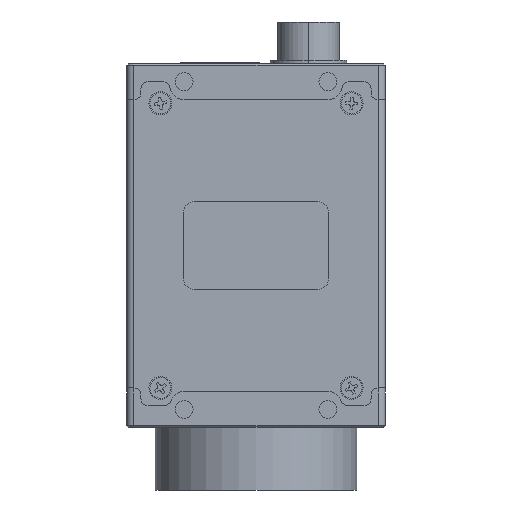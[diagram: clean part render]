
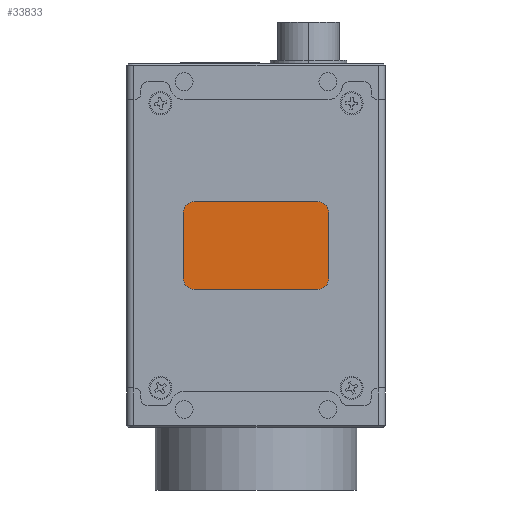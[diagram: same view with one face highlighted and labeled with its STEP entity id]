
A CAD part, front view. The second image highlights one B-rep face of the part: STEP entity #33833.
In plain terms, the highlighted planar face has unit normal (0, -1, 0).
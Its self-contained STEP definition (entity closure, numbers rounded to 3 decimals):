
#498 = ORIENTED_EDGE ( 'NONE', *, *, #19278, .T. ) ;
#1351 = CARTESIAN_POINT ( 'NONE',  ( 8.6, -15.85, 32.7 ) ) ;
#3438 = AXIS2_PLACEMENT_3D ( 'NONE', #42400, #8090, #34596 ) ;
#4419 = CIRCLE ( 'NONE', #32506, 1.5 ) ;
#4607 = EDGE_CURVE ( 'NONE', #36212, #52549, #40625, .T. ) ;
#4867 = CARTESIAN_POINT ( 'NONE',  ( -8.6, -15.85, 32.7 ) ) ;
#5538 = EDGE_CURVE ( 'NONE', #28374, #58795, #42431, .T. ) ;
#6137 = EDGE_CURVE ( 'NONE', #58795, #8797, #14297, .T. ) ;
#6352 = CARTESIAN_POINT ( 'NONE',  ( 10.1, -15.85, 32.7 ) ) ;
#6847 = DIRECTION ( 'NONE',  ( 0., 0., -1. ) ) ;
#7287 = CARTESIAN_POINT ( 'NONE',  ( -10.1, -15.85, 43.4 ) ) ;
#8090 = DIRECTION ( 'NONE',  ( 0., -1., 0. ) ) ;
#8127 = CARTESIAN_POINT ( 'NONE',  ( -10.1, -15.85, 44.9 ) ) ;
#8354 = DIRECTION ( 'NONE',  ( 0., -1., 0. ) ) ;
#8797 = VERTEX_POINT ( 'NONE', #7287 ) ;
#9451 = FACE_OUTER_BOUND ( 'NONE', #48272, .T. ) ;
#10033 = CARTESIAN_POINT ( 'NONE',  ( -8.6, -15.85, 44.9 ) ) ;
#10653 = ORIENTED_EDGE ( 'NONE', *, *, #33877, .T. ) ;
#10662 = DIRECTION ( 'NONE',  ( 0., -1., 0. ) ) ;
#11881 = VECTOR ( 'NONE', #26133, 1000. ) ;
#14297 = CIRCLE ( 'NONE', #3438, 1.5 ) ;
#14392 = CARTESIAN_POINT ( 'NONE',  ( 0., -15.85, 38.8 ) ) ;
#15229 = ORIENTED_EDGE ( 'NONE', *, *, #36536, .T. ) ;
#15652 = LINE ( 'NONE', #49927, #35361 ) ;
#17246 = CIRCLE ( 'NONE', #21784, 1.5 ) ;
#17968 = VERTEX_POINT ( 'NONE', #31705 ) ;
#18272 = LINE ( 'NONE', #52555, #11881 ) ;
#18369 = ORIENTED_EDGE ( 'NONE', *, *, #4607, .T. ) ;
#19278 = EDGE_CURVE ( 'NONE', #21383, #39346, #4419, .T. ) ;
#21383 = VERTEX_POINT ( 'NONE', #1351 ) ;
#21784 = AXIS2_PLACEMENT_3D ( 'NONE', #34850, #8354, #42659 ) ;
#22236 = DIRECTION ( 'NONE',  ( 0., 0., -1. ) ) ;
#23490 = DIRECTION ( 'NONE',  ( 0., 0., -1. ) ) ;
#25269 = ORIENTED_EDGE ( 'NONE', *, *, #26480, .T. ) ;
#25517 = AXIS2_PLACEMENT_3D ( 'NONE', #14392, #48664, #22236 ) ;
#26133 = DIRECTION ( 'NONE',  ( 1., 0., 0. ) ) ;
#26480 = EDGE_CURVE ( 'NONE', #39346, #17968, #40661, .T. ) ;
#28374 = VERTEX_POINT ( 'NONE', #31289 ) ;
#29784 = AXIS2_PLACEMENT_3D ( 'NONE', #44947, #10662, #37160 ) ;
#31289 = CARTESIAN_POINT ( 'NONE',  ( 8.6, -15.85, 44.9 ) ) ;
#31705 = CARTESIAN_POINT ( 'NONE',  ( 10.1, -15.85, 43.4 ) ) ;
#32506 = AXIS2_PLACEMENT_3D ( 'NONE', #51901, #33316, #6847 ) ;
#32819 = DIRECTION ( 'NONE',  ( 0., 0., 1. ) ) ;
#33316 = DIRECTION ( 'NONE',  ( 0., -1., 0. ) ) ;
#33833 = ADVANCED_FACE ( 'NONE', ( #9451 ), #40832, .T. ) ;
#33877 = EDGE_CURVE ( 'NONE', #17968, #28374, #17246, .T. ) ;
#34596 = DIRECTION ( 'NONE',  ( 0., 0., -1. ) ) ;
#34624 = DIRECTION ( 'NONE',  ( -1., 0., 0. ) ) ;
#34850 = CARTESIAN_POINT ( 'NONE',  ( 8.6, -15.85, 43.4 ) ) ;
#35361 = VECTOR ( 'NONE', #23490, 1000. ) ;
#35794 = VECTOR ( 'NONE', #32819, 1000. ) ;
#36212 = VERTEX_POINT ( 'NONE', #55257 ) ;
#36536 = EDGE_CURVE ( 'NONE', #8797, #36212, #15652, .T. ) ;
#37160 = DIRECTION ( 'NONE',  ( 0., 0., -1. ) ) ;
#38112 = ORIENTED_EDGE ( 'NONE', *, *, #49886, .T. ) ;
#39346 = VERTEX_POINT ( 'NONE', #45443 ) ;
#40625 = CIRCLE ( 'NONE', #29784, 1.5 ) ;
#40661 = LINE ( 'NONE', #6352, #35794 ) ;
#40832 = PLANE ( 'NONE',  #25517 ) ;
#42400 = CARTESIAN_POINT ( 'NONE',  ( -8.6, -15.85, 43.4 ) ) ;
#42431 = LINE ( 'NONE', #8127, #51436 ) ;
#42659 = DIRECTION ( 'NONE',  ( 0., 0., -1. ) ) ;
#44947 = CARTESIAN_POINT ( 'NONE',  ( -8.6, -15.85, 34.2 ) ) ;
#45443 = CARTESIAN_POINT ( 'NONE',  ( 10.1, -15.85, 34.2 ) ) ;
#46851 = ORIENTED_EDGE ( 'NONE', *, *, #6137, .T. ) ;
#48272 = EDGE_LOOP ( 'NONE', ( #53608, #46851, #15229, #18369, #38112, #498, #25269, #10653 ) ) ;
#48664 = DIRECTION ( 'NONE',  ( 0., -1., 0. ) ) ;
#49886 = EDGE_CURVE ( 'NONE', #52549, #21383, #18272, .T. ) ;
#49927 = CARTESIAN_POINT ( 'NONE',  ( -10.1, -15.85, 32.7 ) ) ;
#51436 = VECTOR ( 'NONE', #34624, 1000. ) ;
#51901 = CARTESIAN_POINT ( 'NONE',  ( 8.6, -15.85, 34.2 ) ) ;
#52549 = VERTEX_POINT ( 'NONE', #4867 ) ;
#52555 = CARTESIAN_POINT ( 'NONE',  ( -10.1, -15.85, 32.7 ) ) ;
#53608 = ORIENTED_EDGE ( 'NONE', *, *, #5538, .T. ) ;
#55257 = CARTESIAN_POINT ( 'NONE',  ( -10.1, -15.85, 34.2 ) ) ;
#58795 = VERTEX_POINT ( 'NONE', #10033 ) ;
